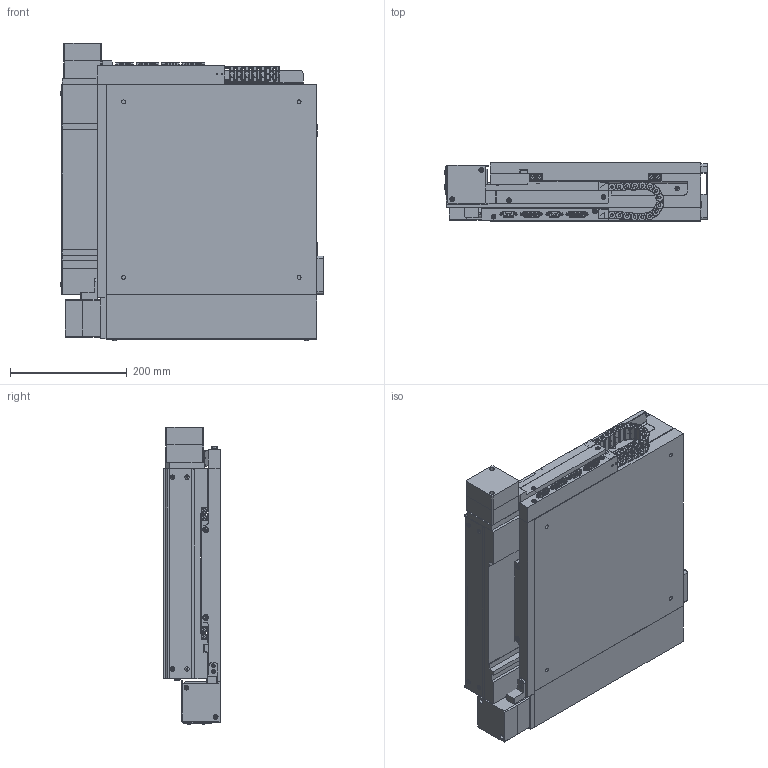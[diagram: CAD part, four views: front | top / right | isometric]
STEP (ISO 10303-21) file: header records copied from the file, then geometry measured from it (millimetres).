
FILE_DESCRIPTION (( 'STEP AP214' ), '1' );
FILE_NAME ('GXY-240-Linear Encoder-EXPORT.STEP', '2025-07-08T14:11:43', ( 'lab' ), ( '' ), 'SwSTEP 2.0', 'SolidWorks 2018', '' );
FILE_SCHEMA (( 'AUTOMOTIVE_DESIGN' ));
Length unit declared in the file: millimetre
Products named in the file (15): 1000003_file_export5; GXY-240-Linear Encoder-EXPORT; 1000004_file_export11; 1000008_file_export4; 1000001_file_export7; 1000006_file_export16; 1000013_file_export40; 1000009_file_export28; 1000007_file_export13; 1000002_file_export18; 1000005_file_export15; 1000012_file_export41; 1000014_file_export53; 1000010_file_export17; 1000011_file_export38
Assembly tree (47 placements, depth 2):
  GXY-240-Linear Encoder-EXPORT
    1000001_file_export7
    1000002_file_export18
    1000003_file_export5
    1000004_file_export11  x2
    1000005_file_export15  x2
    1000006_file_export16  x6
    1000007_file_export13
    1000008_file_export4
    1000009_file_export28  x4
    1000010_file_export17
    1000011_file_export38  x15
    1000012_file_export41  x2
    1000013_file_export40  x2
    1000014_file_export53  x8
Bounding box: 450.15 x 99 x 508.14 mm (x, y, z)
Volume: 17056012.3 mm3; surface area: 1814069.9 mm2
Topology: 163 solids, 163 shells, 5167 faces, 12492 edges, 7794 vertices
Faces by surface type: plane 3131, cylinder 1310, cone 358, bspline 340, torus 28
Entity records: 89247 total; most frequent: CARTESIAN_POINT 19330, DIRECTION 12851, ORIENTED_EDGE 12428, EDGE_CURVE 6214, AXIS2_PLACEMENT_3D 4320, LINE 4211, VECTOR 4211, VERTEX_POINT 3839
